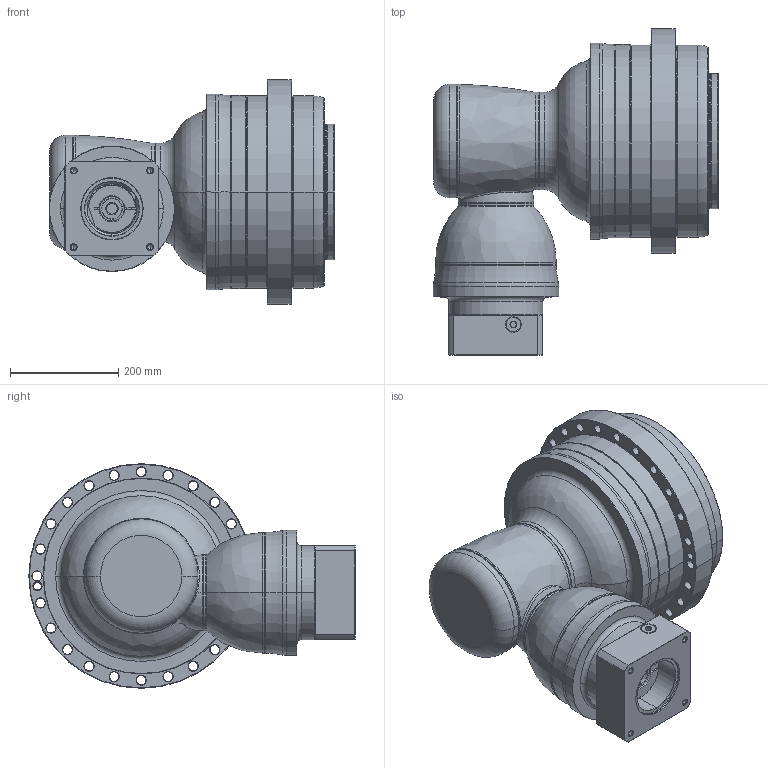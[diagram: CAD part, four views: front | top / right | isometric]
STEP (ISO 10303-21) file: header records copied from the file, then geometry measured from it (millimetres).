
FILE_DESCRIPTION((''),'2;1');
FILE_NAME('APK355_4ST_38-P0409910201_ASM','2018-10-04T',('D00080'),(''),'PRO/ENGINEER BY PARAMETRIC TECHNOLOGY CORPORATION, 2015240','PRO/ENGINEER BY PARAMETRIC TECHNOLOGY CORPORATION, 2015240','');
FILE_SCHEMA(('CONFIG_CONTROL_DESIGN'));
Length unit declared in the file: millimetre
Products named in the file (13): P1008600002; P1315600001; P1007601001; P1317610401; P1821110001; P0276101003; P0357101103; P1222100001; P0503900012; P0912554001; P0409910201; 21711422019; APK355_4ST_38-P0409910201_ASM
Assembly tree (12 placements, depth 2):
  APK355_4ST_38-P0409910201_ASM
    P1008600002
    P1315600001
    P1007601001
    P1317610401
    P1821110001
    P0276101003
    P0357101103
    P1222100001
    P0503900012
    P0912554001
    P0409910201
    21711422019
Bounding box: 528 x 603 x 415 mm (x, y, z)
Volume: 45014027.9 mm3; surface area: 2189013.3 mm2
Topology: 13 solids, 40 shells, 809 faces, 1838 edges, 1103 vertices
Faces by surface type: cylinder 321, cone 232, plane 130, torus 93, bspline 31, sphere 2
Entity records: 29158 total; most frequent: CARTESIAN_POINT 10328, DIRECTION 4339, ORIENTED_EDGE 3478, AXIS2_PLACEMENT_3D 1860, EDGE_CURVE 1794, VERTEX_POINT 1103, CIRCLE 1045, EDGE_LOOP 969
